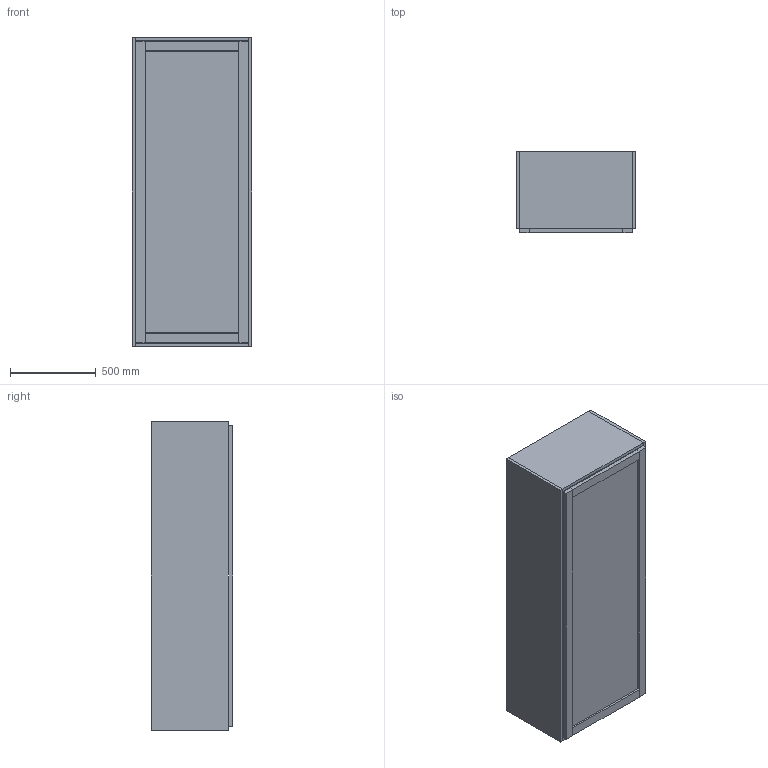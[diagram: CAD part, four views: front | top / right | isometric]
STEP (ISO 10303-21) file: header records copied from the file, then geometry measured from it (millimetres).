
FILE_DESCRIPTION(('Open CASCADE Model'),'2;1');
FILE_NAME('Open CASCADE Shape Model','2026-10-18T16:02:54',('Author'),( 'Open CASCADE'),'Open CASCADE STEP processor 7.8','Open CASCADE 7.8' ,'Unknown');
FILE_SCHEMA(('AUTOMOTIVE_DESIGN { 1 0 10303 214 1 1 1 1 }'));
Length unit declared in the file: millimetre
Products named in the file (11): Cabinet_Concept_Not_For_Production; P001; P002; P003; P004; P005; D001; D002; D003; D004; G001
Assembly tree (10 placements, depth 2):
  Cabinet_Concept_Not_For_Production
    P001
    P002
    P003
    P004
    P005
    D001
    D002
    D003
    D004
    G001
Bounding box: 700 x 475 x 1800 mm (x, y, z)
Volume: 58424712 mm3; surface area: 9612128 mm2
Topology: 10 solids, 10 shells, 60 faces, 120 edges, 80 vertices
Faces by surface type: plane 60
Entity records: 3341 total; most frequent: CARTESIAN_POINT 511, DIRECTION 502, LINE 360, VECTOR 360, ORIENTED_EDGE 240, PCURVE 240, DEFINITIONAL_REPRESENTATION 240, EDGE_CURVE 120
